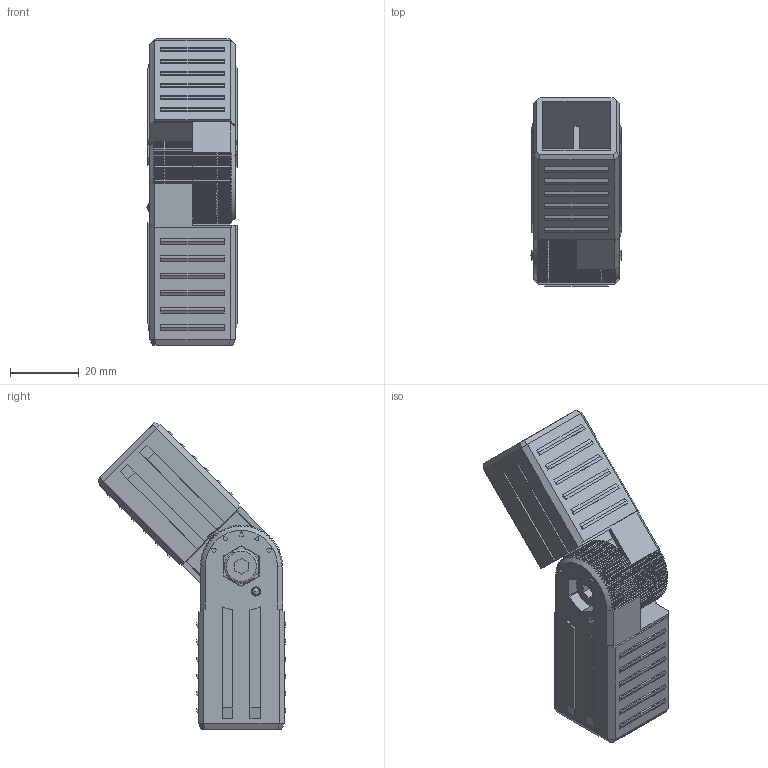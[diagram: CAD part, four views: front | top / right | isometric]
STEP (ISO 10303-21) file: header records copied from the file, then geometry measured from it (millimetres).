
FILE_DESCRIPTION (( 'STEP AP203' ), '1' );
FILE_NAME ('013.030.122 45°.STEP', '2020-09-28T06:39:07', ( '' ), ( '' ), 'SwSTEP 2.0', 'SolidWorks 2018', '' );
FILE_SCHEMA (( 'CONFIG_CONTROL_DESIGN' ));
Length unit declared in the file: millimetre
Products named in the file (5): 013.030.122 45°; 013.030.122A; VITI TCEI TESTA BASSA DIN 7984_M6x16 UNI 5931; DADI ESAGONALI RIBASSATI UNI 5589_M6 UNI 5589; SPINE CILINDRICHE A UNI 6364-68_A 2.5x20 UNI 6364-68
Assembly tree (6 placements, depth 2):
  013.030.122 45°
    013.030.122A  x2
    VITI TCEI TESTA BASSA DIN 7984_M6x16 UNI 5931
    DADI ESAGONALI RIBASSATI UNI 5589_M6 UNI 5589
    SPINE CILINDRICHE A UNI 6364-68_A 2.5x20 UNI 6364-68  x2
Bounding box: 26.31 x 54.81 x 89.31 mm (x, y, z)
Volume: 31173.5 mm3; surface area: 24361.3 mm2
Topology: 6 solids, 6 shells, 898 faces, 2418 edges, 1564 vertices
Faces by surface type: plane 496, cylinder 278, bspline 48, cone 40, torus 20, sphere 16
Entity records: 15785 total; most frequent: CARTESIAN_POINT 4062, ORIENTED_EDGE 2492, DIRECTION 2112, EDGE_CURVE 1246, VERTEX_POINT 808, VECTOR 720, LINE 720, AXIS2_PLACEMENT_3D 696
